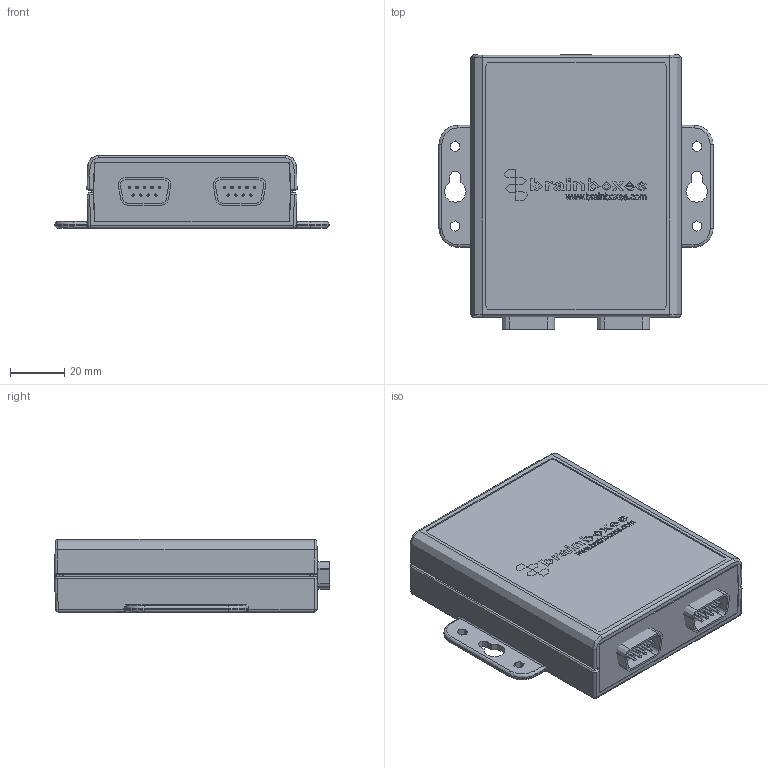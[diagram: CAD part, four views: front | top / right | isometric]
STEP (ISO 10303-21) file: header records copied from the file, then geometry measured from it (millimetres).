
FILE_DESCRIPTION(('STEP AP214'),'1');
FILE_NAME('US-257 Cased PCB 3D Step.step','2021-01-19T09:09:20',(' '),(' '),'Spatial InterOp 3D','XD3DPlugin XRACreate',' ');
FILE_SCHEMA(('automotive_design'));
Length unit declared in the file: millimetre
Products named in the file (29): Submodel-Input_S\00USBCONNB.xtd; 00USBCONNB; Submodel-00USBCONNB_part_simplified_USBCONNB; DesignRootModel; uid__9223372036854778595; Submodel-AssyDefn_12; BrainboxesLogo.step; Submodel-AssyDefn_11; CamdenEndPanel.sat; Submodel-AssyDefn_10; 00ESUSCASELIDNOHOLES.sat; Submodel-AssyDefn_9; 00ESUSCASEBASE.sat; Submodel-noModelForPart_DATUM_2441444698; placementOutline; Submodel-DATUM_2441444698_part_DATUM; Submodel-noModelForPart_TOOLINGPIN_2500184072; Submodel-TOOLINGPIN_2500184072_part_TOOLINGPIN; Submodel-noModelForPart_FIDUCIAL_3219705766; Submodel-FIDUCIAL_3219705766_part_FIDUCIAL; Submodel-ImportedPartModels\00MRD09.step; 00MRD09.xtd; Submodel-00MRD50_part_DB9RA_slash_M; Submodel-noModelForPart_TOOLINGHOLE_399477976; Submodel-TOOLINGHOLE_399477976_part_TOOLINGHOLE; US-257 Cased PCB 3D Step
Assembly tree (34 placements, depth 5):
  US-257 Cased PCB 3D Step
    DesignRootModel
      Submodel-00USBCONNB_part_simplified_USBCONNB
        Submodel-Input_S\00USBCONNB.xtd
          00USBCONNB
      uid__9223372036854778595
      Submodel-AssyDefn_12  x2
        BrainboxesLogo.step
      Submodel-AssyDefn_11  x2
        CamdenEndPanel.sat
      Submodel-AssyDefn_10
        00ESUSCASELIDNOHOLES.sat
      Submodel-AssyDefn_9
        00ESUSCASEBASE.sat
      Submodel-DATUM_2441444698_part_DATUM
        Submodel-noModelForPart_DATUM_2441444698
          placementOutline
      Submodel-TOOLINGPIN_2500184072_part_TOOLINGPIN  x2
        Submodel-noModelForPart_TOOLINGPIN_2500184072
          placementOutline
      Submodel-FIDUCIAL_3219705766_part_FIDUCIAL
        Submodel-noModelForPart_FIDUCIAL_3219705766
          placementOutline
      Submodel-00MRD50_part_DB9RA_slash_M  x2
        Submodel-ImportedPartModels\00MRD09.step
          00MRD09.xtd
      Submodel-TOOLINGHOLE_399477976_part_TOOLINGHOLE  x3
        Submodel-noModelForPart_TOOLINGHOLE_399477976
          placementOutline
Bounding box: 101 x 101.23 x 27.1 mm (x, y, z)
Volume: 66042.2 mm3; surface area: 75672 mm2
Topology: 90 solids, 90 shells, 2555 faces, 6695 edges, 4370 vertices
Faces by surface type: plane 1556, bspline 616, cylinder 315, sphere 40, torus 24, cone 4
Full cylindrical faces by diameter (mm): 3.81 x1
Entity records: 73614 total; most frequent: CARTESIAN_POINT 16858, ORIENTED_EDGE 9064, DIRECTION 7862, EDGE_CURVE 4532, LINE 3344, VECTOR 3344, VERTEX_POINT 2949, AXIS2_PLACEMENT_3D 2259
